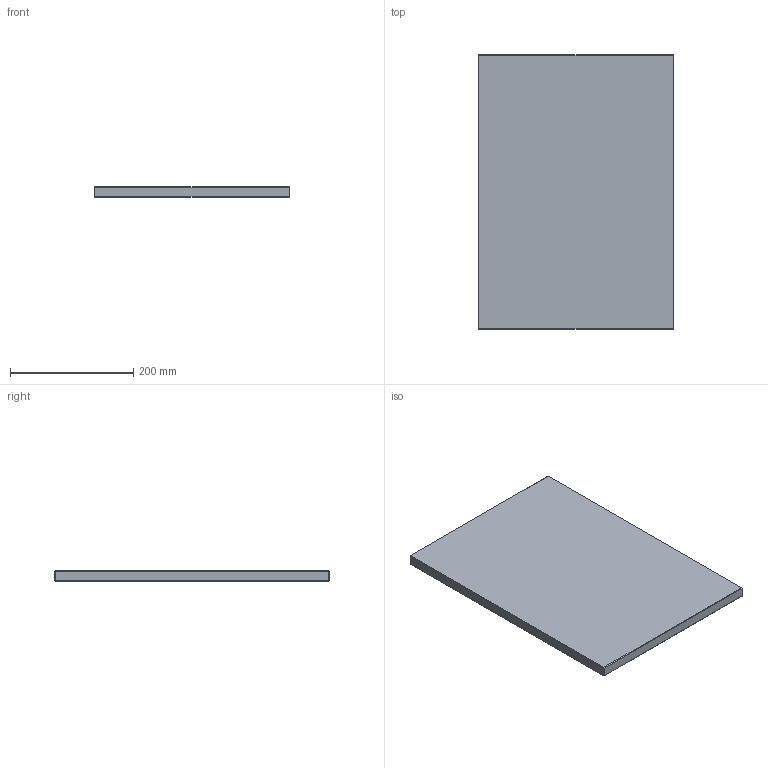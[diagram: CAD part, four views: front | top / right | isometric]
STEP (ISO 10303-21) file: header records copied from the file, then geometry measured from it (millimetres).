
FILE_DESCRIPTION (( 'STEP AP214' ), '1' );
FILE_NAME ('CPE-P-446x446x17.STEP', '2021-03-25T14:05:39', ( '' ), ( '' ), 'SwSTEP 2.0', 'SolidWorks 2018', '' );
FILE_SCHEMA (( 'AUTOMOTIVE_DESIGN' ));
Length unit declared in the file: millimetre
Products named in the file (1): CPE-P-446x446x17
Bounding box: 318 x 446 x 17 mm (x, y, z)
Volume: 2409519.3 mm3; surface area: 307799 mm2
Topology: 1 solids, 1 shells, 26 faces, 48 edges, 24 vertices
Faces by surface type: plane 26
Entity records: 634 total; most frequent: DIRECTION 102, CARTESIAN_POINT 99, ORIENTED_EDGE 96, LINE 48, VECTOR 48, EDGE_CURVE 48, AXIS2_PLACEMENT_3D 27, ADVANCED_FACE 26
